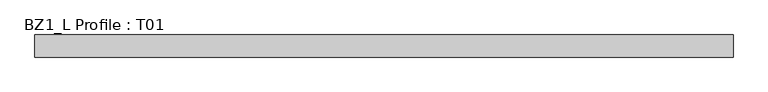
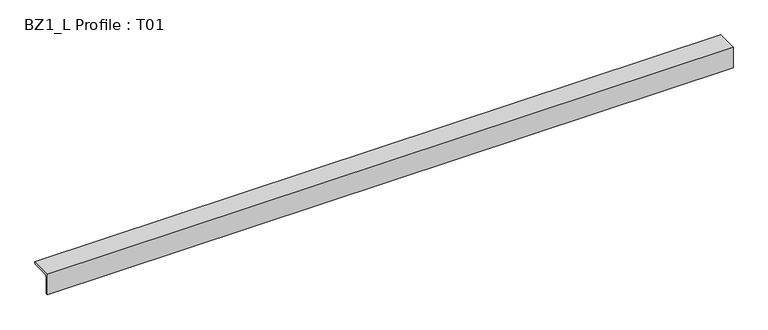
"""IFC4 building model written with IfcOpenShell, lengths in millimetres: beam geometry, BZ1_L Profile : T01."""

import ifcopenshell
import ifcopenshell.guid

model = None  # the IFC model being written
_history = None  # IfcOwnerHistory: only IFC2X3 demands one
_inside = {}  # id of a spatial element -> (the spatial element, [elements in it])
_under = {}  # id of a project, library or spatial element -> (it, [spatial elements below it])
_declared = {}  # id of a project -> (the project, [libraries it declares])
_typed = {}  # id of a type object -> (the type object, [elements of that type])
_made_of = {}  # id of a material, layer set ... -> (it, [elements and type objects made of it])


def new_model(schema):
    """Start an empty IFC model of exactly this schema.

    Asked for "IFC4X3", IfcOpenShell would pick the latest addendum, in which some entities
    have other attributes; the version numbers below select the first issue.
    IFC2X3 requires an IfcOwnerHistory on every rooted entity: one is made here for all.
    """
    global model, _history
    if schema == "IFC4X3":
        model = ifcopenshell.file(schema_version=(4, 3, 0, 0))
    else:
        model = ifcopenshell.file(schema=schema)
    _inside.clear()
    _under.clear()
    _declared.clear()
    _typed.clear()
    _made_of.clear()
    _history = None
    if model.schema == "IFC2X3":
        org = make("IfcOrganization", Name="unknown")
        user = make(
            "IfcPersonAndOrganization",
            ThePerson=make("IfcPerson", FamilyName="unknown"),
            TheOrganization=org,
        )
        app = make(
            "IfcApplication",
            ApplicationDeveloper=org,
            Version="unknown",
            ApplicationFullName="unknown",
            ApplicationIdentifier="unknown",
        )
        _history = make(
            "IfcOwnerHistory",
            OwningUser=user,
            OwningApplication=app,
            ChangeAction="ADDED",
            CreationDate=0,
        )
    return model


def make(cls, **values):
    """One entity of the class cls with the attributes given. An attribute that is None is left unset."""
    return model.create_entity(
        cls, **{name: value for name, value in values.items() if value is not None}
    )


def rooted(cls, **values):
    """An entity with a GlobalId (a new one), such as an element, a storey or a relation."""
    return make(cls, GlobalId=ifcopenshell.guid.new(), OwnerHistory=_history, **values)


def si_unit(unit_type, name, prefix=None):
    """IfcSIUnit, for example si_unit("LENGTHUNIT", "METRE", prefix="MILLI")."""
    return make("IfcSIUnit", UnitType=unit_type, Prefix=prefix, Name=name)


def assignment(units):
    """IfcUnitAssignment: the units of a project."""
    return None if units is None else make("IfcUnitAssignment", Units=units)


def point(xyz):
    """IfcCartesianPoint."""
    return None if xyz is None else make("IfcCartesianPoint", Coordinates=xyz)


def direction(xyz):
    """IfcDirection."""
    return None if xyz is None else make("IfcDirection", DirectionRatios=xyz)


def frame(location, z_axis=None, x_axis=None):
    """IfcAxis2Placement3D, a coordinate frame: its origin and axes. An axis left out is left unset."""
    return make(
        "IfcAxis2Placement3D",
        Location=point(location),
        Axis=direction(z_axis),
        RefDirection=direction(x_axis),
    )


def frame_2d(location, x_axis=None):
    """IfcAxis2Placement2D, a coordinate frame in the plane: its origin and x axis."""
    return make(
        "IfcAxis2Placement2D", Location=point(location), RefDirection=direction(x_axis)
    )


def origin():
    """The frame at (0, 0, 0) with its axes left unset."""
    return frame((0.0, 0.0, 0.0))


def place(relative_to, where):
    """IfcLocalPlacement: puts the frame where relative to a parent placement (None: the world)."""
    return make(
        "IfcLocalPlacement", PlacementRelTo=relative_to, RelativePlacement=where
    )


def context(
    kind, dimensions, precision=None, world=None, true_north=None, identifier=None
):
    """IfcGeometricRepresentationContext, for example the 3D "Model" context."""
    return make(
        "IfcGeometricRepresentationContext",
        ContextIdentifier=identifier,
        ContextType=kind,
        CoordinateSpaceDimension=dimensions,
        Precision=precision,
        WorldCoordinateSystem=world,
        TrueNorth=true_north,
    )


def project(units=None, contexts=None):
    """IfcProject with its units and contexts."""
    return rooted(
        "IfcProject",
        Name="project",
        RepresentationContexts=contexts,
        UnitsInContext=assignment(units),
    )


def spatial(cls, under=None, at=None, **own):
    """A site, building, storey or space (cls), placed at a placement, below another one or the project."""
    s = rooted(cls, ObjectPlacement=at, **own)
    if under is not None:
        _under.setdefault(under.id(), (under, []))[1].append(s)
    return s


def polyline(points):
    """IfcPolyline through the points."""
    return make("IfcPolyline", Points=[point(p) for p in points])


def circle_curve(where, radius):
    """IfcCircle in the frame where."""
    return make("IfcCircle", Position=where, Radius=radius)


def trimmed(basis, trim1, trim2, sense, master):
    """IfcTrimmedCurve: the piece of a basis curve between two trims."""
    return make(
        "IfcTrimmedCurve",
        BasisCurve=basis,
        Trim1=trim1,
        Trim2=trim2,
        SenseAgreement=sense,
        MasterRepresentation=master,
    )


def segment(curve, same_sense, transition):
    """IfcCompositeCurveSegment."""
    return make(
        "IfcCompositeCurveSegment",
        Transition=transition,
        SameSense=same_sense,
        ParentCurve=curve,
    )


def composite_curve(segments, self_intersect=None):
    """IfcCompositeCurve: segments joined end to end."""
    return make("IfcCompositeCurve", Segments=segments, SelfIntersect=self_intersect)


def outline(outer, holes=None, kind="AREA"):
    """IfcArbitraryClosedProfileDef: a profile drawn as a closed curve; with holes, ...WithVoids."""
    if holes is None:
        return make("IfcArbitraryClosedProfileDef", ProfileType=kind, OuterCurve=outer)
    return make(
        "IfcArbitraryProfileDefWithVoids",
        ProfileType=kind,
        OuterCurve=outer,
        InnerCurves=holes,
    )


def extrude(swept, where, along, depth):
    """IfcExtrudedAreaSolid: the profile swept, set in the frame where, extruded along a direction by depth."""
    return make(
        "IfcExtrudedAreaSolid",
        SweptArea=swept,
        Position=where,
        ExtrudedDirection=direction(along),
        Depth=depth,
    )


def shape(context_of_items, identifier, shape_type, items):
    """IfcShapeRepresentation: the items that make up one representation, for example the "Body"."""
    return make(
        "IfcShapeRepresentation",
        ContextOfItems=context_of_items,
        RepresentationIdentifier=identifier,
        RepresentationType=shape_type,
        Items=items,
    )


def source(mapping_origin, context_of_items, identifier, shape_type, items):
    """IfcRepresentationMap: a shape defined once, which mapped items show again and again."""
    return make(
        "IfcRepresentationMap",
        MappingOrigin=mapping_origin,
        MappedRepresentation=shape(context_of_items, identifier, shape_type, items),
    )


def transform(
    local_origin,
    x_axis=None,
    y_axis=None,
    z_axis=None,
    scale=None,
    scale2=None,
    scale3=None,
    uniform=True,
):
    """IfcCartesianTransformationOperator3D, or its non-uniform kind. x_axis, y_axis, z_axis: its Axis1, 2, 3."""
    if uniform:
        return make(
            "IfcCartesianTransformationOperator3D",
            Axis1=direction(x_axis),
            Axis2=direction(y_axis),
            LocalOrigin=point(local_origin),
            Scale=scale,
            Axis3=direction(z_axis),
        )
    return make(
        "IfcCartesianTransformationOperator3DnonUniform",
        Axis1=direction(x_axis),
        Axis2=direction(y_axis),
        LocalOrigin=point(local_origin),
        Scale=scale,
        Axis3=direction(z_axis),
        Scale2=scale2,
        Scale3=scale3,
    )


def mapped(mapping_source, mapping_target):
    """IfcMappedItem: shows the shape of a source again, moved by a transform."""
    return make(
        "IfcMappedItem", MappingSource=mapping_source, MappingTarget=mapping_target
    )


def made_of(thing, what):
    """Note that an element or type object is made of a material, layer set ...; save() writes the relation."""
    if what is not None:
        _made_of.setdefault(what.id(), (what, []))[1].append(thing)
    return thing


def element(
    cls,
    number,
    at=None,
    inside=None,
    cuts=None,
    type_object=None,
    material=None,
    context=None,
    identifier="Body",
    shape_type=None,
    held_by="IfcProductDefinitionShape",
    body=None,
    shapes=None,
    **own,
):
    """One element of the class cls, such as IfcWall. Its Tag is "e" and its number.

    at: its placement. inside: the storey or other place that contains it. cuts: it is an
    opening in that element (IfcRelVoidsElement). A single representation is given by context,
    identifier, shape_type and body (its items); several are given by shapes. held_by: the class
    of the entity that holds the representations. save() writes the other relations.
    """
    e = rooted(cls, Tag="e%d" % number, ObjectPlacement=at, **own)
    if body is not None:
        shapes = [shape(context, identifier, shape_type, body)]
    if shapes is not None:
        e.Representation = make(held_by, Representations=shapes)
    if inside is not None:
        _inside.setdefault(inside.id(), (inside, []))[1].append(e)
    if cuts is not None:
        rooted(
            "IfcRelVoidsElement", RelatingBuildingElement=cuts, RelatedOpeningElement=e
        )
    if type_object is not None:
        _typed.setdefault(type_object.id(), (type_object, []))[1].append(e)
    return made_of(e, material)


def aggregate(whole, parts):
    """IfcRelAggregates: a whole, such as a stair, and the parts it consists of."""
    return rooted("IfcRelAggregates", RelatingObject=whole, RelatedObjects=parts)


def save(model, path):
    """Write the relations noted so far, then the file.

    IfcRelAggregates (storeys below a building ...), IfcRelContainedInSpatialStructure (elements
    in a storey), IfcRelDefinesByType, IfcRelAssociatesMaterial and IfcRelDeclares: one each for
    every whole, place, type object, material and project.
    """
    for whole, parts in _under.values():
        aggregate(whole, parts)
    for where, things in _inside.values():
        rooted(
            "IfcRelContainedInSpatialStructure",
            RelatedElements=things,
            RelatingStructure=where,
        )
    for kind, things in _typed.values():
        rooted("IfcRelDefinesByType", RelatedObjects=things, RelatingType=kind)
    for what, things in _made_of.values():
        rooted("IfcRelAssociatesMaterial", RelatedObjects=things, RelatingMaterial=what)
    for by, libraries in _declared.values():
        rooted("IfcRelDeclares", RelatingContext=by, RelatedDefinitions=libraries)
    model.write(path)


def bz1_l_profile_t01_ad5e237f(model_context):
    return source(origin(), model_context, "Body", "SweptSolid", [
        extrude(outline(composite_curve([segment(polyline([(41.5, 0.0), (7.0, 0.0)]), True, "CONTINUOUS"), segment(trimmed(circle_curve(frame_2d((7.0, -7.0)), 7.0), [point((7.0, 0.0))], [point((0.0, -7.0))], True, "CARTESIAN"), True, "CONTINUOUS"), segment(polyline([(0.0, -7.0), (0.0, -41.5)]), True, "CONTINUOUS"), segment(trimmed(circle_curve(frame_2d((-3.5, -41.5)), 3.5), [point((0.0, -41.5))], [point((-3.5, -45.0))], False, "CARTESIAN"), True, "CONTINUOUS"), segment(polyline([(-3.5, -45.0), (-5.0, -45.0), (-5.0, 5.0), (45.0, 5.0), (45.0, 3.5)]), True, "CONTINUOUS"), segment(trimmed(circle_curve(frame_2d((41.5, 3.5)), 3.5), [point((45.0, 3.5))], [point((41.5, 0.0))], False, "CARTESIAN"), True, "CONTINUOUS")], self_intersect=False)), frame((0.0, 0.0, 0.0), z_axis=(1.0, 0.0, 0.0), x_axis=(0.0, 1.0, 0.0)), (0.0, 0.0, 1.0), 1580.0),
    ])


if __name__ == "__main__":
    model = new_model("IFC4")
    model_context = context("Model", 3, world=origin())
    ifc_project = project(units=[si_unit("LENGTHUNIT", "METRE", prefix="MILLI")], contexts=[model_context])
    site = spatial("IfcSite", under=ifc_project)
    building = spatial("IfcBuilding", under=site)
    placement = place(None, origin())
    bz1_l_profile_t01_shape = bz1_l_profile_t01_ad5e237f(model_context)
    element("IfcBeam", 1, ObjectType="BZ1_L Profile : T01", at=placement, inside=building, context=model_context, shape_type="MappedRepresentation", body=[
        mapped(bz1_l_profile_t01_shape, transform((0.0, 0.0, 0.0), x_axis=(1.0, 0.0, 0.0), y_axis=(0.0, 1.0, 0.0), z_axis=(0.0, 0.0, 1.0))),
    ])
    save(model, "model.ifc")
